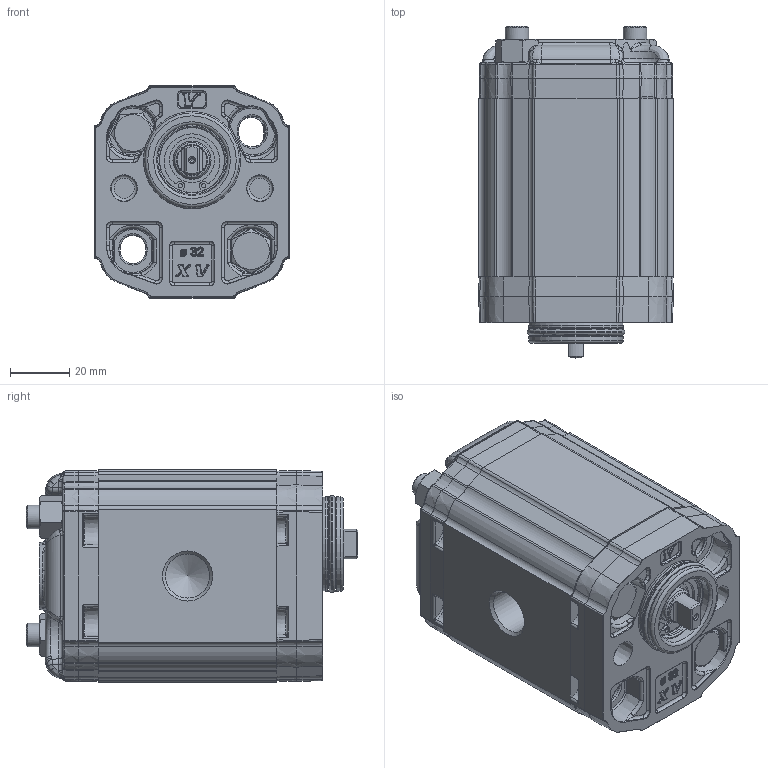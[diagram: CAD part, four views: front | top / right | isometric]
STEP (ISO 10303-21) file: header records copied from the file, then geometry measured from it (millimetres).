
FILE_DESCRIPTION(/* description */ ('Unknown'),/* implementation_level */ '2;1');
FILE_NAME(/* name */ 'X1R3125DBBE',/* time_stamp */ '2026-05-26T19:01:09+02:00',/* author */ ('Unknown'),/* organization */ ('Unknown'),/* preprocessor_version */ 'ST-DEVELOPER v16.7',/* originating_system */ 'Solid Edge',/* authorisation */ 'Unknown');
FILE_SCHEMA (('AUTOMOTIVE_DESIGN {1 0 10303 214 3 1 1}'));
Products named in the file (5): X1R3125DBBE; X1R25; 1D; X1BBH60,5; XR119-E
Assembly tree (4 placements, depth 2):
  X1R3125DBBE
    X1R25
    1D
    X1BBH60,5
    XR119-E
Bounding box: 66 x 112.49 x 72 mm (x, y, z)
Volume: 362715.1 mm3; surface area: 69133.4 mm2
Topology: 4 solids, 5 shells, 1822 faces, 4324 edges, 2524 vertices
Faces by surface type: cylinder 500, bspline 445, plane 366, torus 239, cone 210, sphere 62
Full cylindrical faces by diameter (mm): 1.447 x2, 1.5 x1, 8 x6, 8.5 x3, 9 x2, 10 x1, 10.5 x2, 11.445 x1, 11.965 x1, 12 x3, 12.923 x1, 14.95 x2, 15.115 x1, 15.181 x1, 19 x1, 20 x1, 22 x2, 22.2 x1, 23 x1, 24 x1, 29.4 x2, 32 x1, 32.96 x1
Entity records: 98587 total; most frequent: CARTESIAN_POINT 47192, ORIENTED_EDGE 8212, DIRECTION 7708, EDGE_CURVE 4106, AXIS2_PLACEMENT_3D 3295, VERTEX_POINT 2476, FACE_BOUND 2024, EDGE_LOOP 2020
